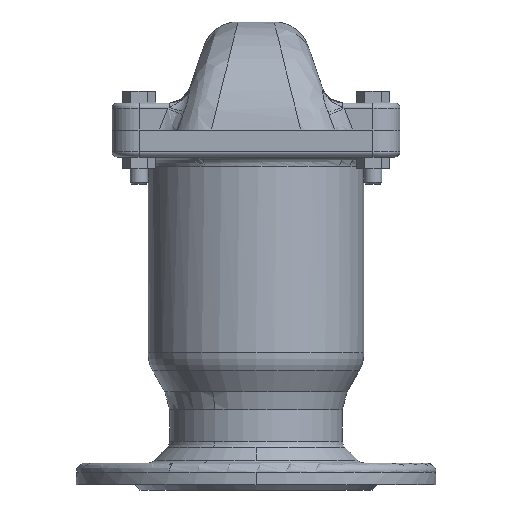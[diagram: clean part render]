
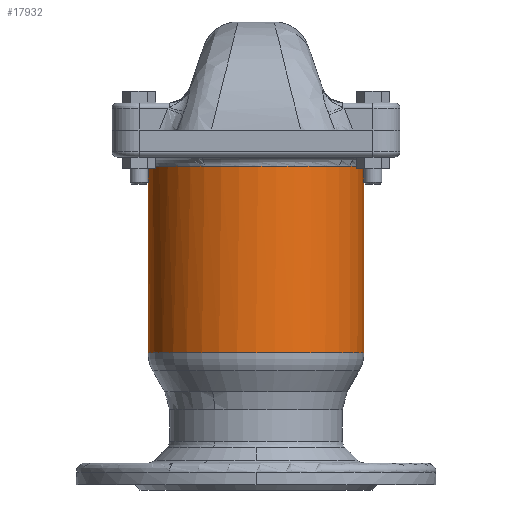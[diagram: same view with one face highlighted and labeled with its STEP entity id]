
A CAD part, front view. The second image highlights one B-rep face of the part: STEP entity #17932.
In plain terms, the highlighted cylindrical face has radius 60 mm (diameter 120 mm), a partial arc.
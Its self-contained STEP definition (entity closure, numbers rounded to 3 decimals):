
#188 = CARTESIAN_POINT ( 'NONE',  ( 60., 0., 76.144 ) ) ;
#362 = CIRCLE ( 'NONE', #19416, 60. ) ;
#935 = CARTESIAN_POINT ( 'NONE',  ( 60., 0., 180. ) ) ;
#1268 = CARTESIAN_POINT ( 'NONE',  ( 0., 0., 180. ) ) ;
#1510 = LINE ( 'NONE', #11102, #13622 ) ;
#1554 = VECTOR ( 'NONE', #11559, 1000. ) ;
#1996 = DIRECTION ( 'NONE',  ( 0., 0., -1. ) ) ;
#2068 = DIRECTION ( 'NONE',  ( 0., 0., 1. ) ) ;
#2437 = ORIENTED_EDGE ( 'NONE', *, *, #15811, .F. ) ;
#2745 = VERTEX_POINT ( 'NONE', #16991 ) ;
#3522 = CIRCLE ( 'NONE', #9569, 60. ) ;
#3593 = CARTESIAN_POINT ( 'NONE',  ( 0., 0., 76.144 ) ) ;
#3921 = ORIENTED_EDGE ( 'NONE', *, *, #8803, .F. ) ;
#5083 = CIRCLE ( 'NONE', #14249, 60. ) ;
#5126 = DIRECTION ( 'NONE',  ( 1., 0., 0. ) ) ;
#5280 = AXIS2_PLACEMENT_3D ( 'NONE', #1268, #16386, #8840 ) ;
#5294 = EDGE_LOOP ( 'NONE', ( #9865, #2437, #3921, #5348, #9675 ) ) ;
#5348 = ORIENTED_EDGE ( 'NONE', *, *, #17192, .T. ) ;
#6489 = CARTESIAN_POINT ( 'NONE',  ( 0., 0., 180. ) ) ;
#6556 = EDGE_CURVE ( 'NONE', #2745, #14669, #16743, .T. ) ;
#7740 = CARTESIAN_POINT ( 'NONE',  ( -60., 0., 180. ) ) ;
#8025 = DIRECTION ( 'NONE',  ( -1., 0., 0. ) ) ;
#8803 = EDGE_CURVE ( 'NONE', #12483, #17348, #5083, .T. ) ;
#8840 = DIRECTION ( 'NONE',  ( -1., 0., 0. ) ) ;
#9072 = FACE_OUTER_BOUND ( 'NONE', #5294, .T. ) ;
#9569 = AXIS2_PLACEMENT_3D ( 'NONE', #3593, #14226, #5126 ) ;
#9675 = ORIENTED_EDGE ( 'NONE', *, *, #11439, .T. ) ;
#9865 = ORIENTED_EDGE ( 'NONE', *, *, #6556, .F. ) ;
#11102 = CARTESIAN_POINT ( 'NONE',  ( -60., 0., 180. ) ) ;
#11169 = CARTESIAN_POINT ( 'NONE',  ( 0., 0., 180. ) ) ;
#11439 = EDGE_CURVE ( 'NONE', #12794, #14669, #3522, .T. ) ;
#11559 = DIRECTION ( 'NONE',  ( 0., 0., -1. ) ) ;
#12483 = VERTEX_POINT ( 'NONE', #7740 ) ;
#12694 = DIRECTION ( 'NONE',  ( -1., 0., 0. ) ) ;
#12794 = VERTEX_POINT ( 'NONE', #17389 ) ;
#13622 = VECTOR ( 'NONE', #1996, 1000. ) ;
#14226 = DIRECTION ( 'NONE',  ( 0., 0., 1. ) ) ;
#14249 = AXIS2_PLACEMENT_3D ( 'NONE', #11169, #2068, #12694 ) ;
#14282 = CARTESIAN_POINT ( 'NONE',  ( -28.766, -52.655, 180. ) ) ;
#14669 = VERTEX_POINT ( 'NONE', #188 ) ;
#15811 = EDGE_CURVE ( 'NONE', #17348, #2745, #362, .T. ) ;
#16386 = DIRECTION ( 'NONE',  ( 0., 0., -1. ) ) ;
#16653 = CYLINDRICAL_SURFACE ( 'NONE', #5280, 60. ) ;
#16743 = LINE ( 'NONE', #935, #1554 ) ;
#16991 = CARTESIAN_POINT ( 'NONE',  ( 60., 0., 180. ) ) ;
#17103 = DIRECTION ( 'NONE',  ( 0., 0., 1. ) ) ;
#17192 = EDGE_CURVE ( 'NONE', #12483, #12794, #1510, .T. ) ;
#17348 = VERTEX_POINT ( 'NONE', #14282 ) ;
#17389 = CARTESIAN_POINT ( 'NONE',  ( -60., 0., 76.144 ) ) ;
#17932 = ADVANCED_FACE ( 'NONE', ( #9072 ), #16653, .T. ) ;
#19416 = AXIS2_PLACEMENT_3D ( 'NONE', #6489, #17103, #8025 ) ;
